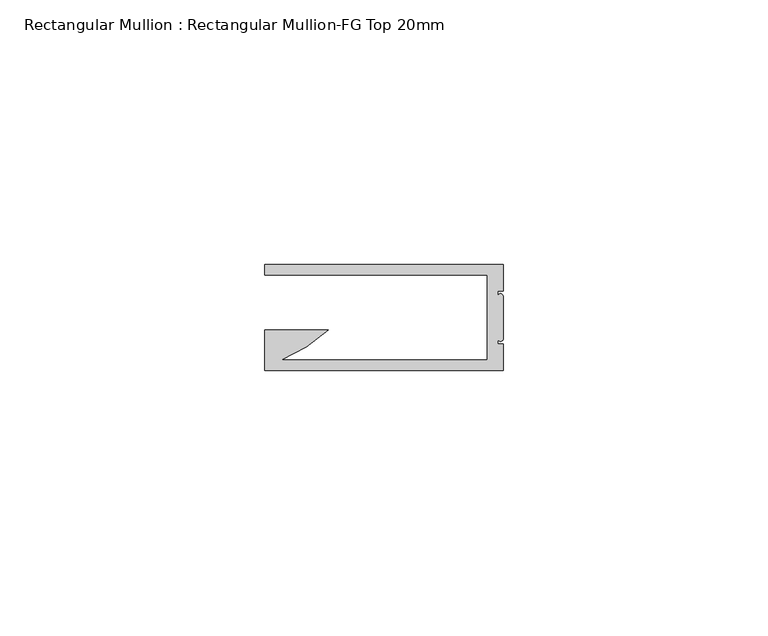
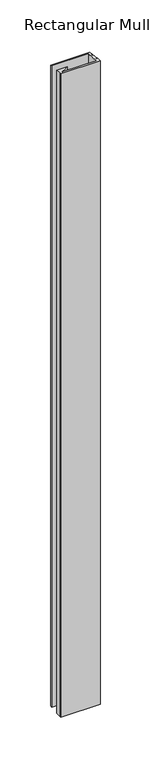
"""IFC4 building model written with IfcOpenShell, lengths in millimetres: member geometry, Rectangular Mullion : Rectangular Mullion-FG Top 20mm."""

from ifc_helpers import new_model, si_unit, frame, origin, place, context, project, spatial, ellipse_curve, source, transform, mapped, element, save
from ifc_brep_helpers import plane_surface, cylinder_surface, advanced_brep


def rectangular_mullion_rectangular_mullion_fg_top_20mm_b5ec766e(model_context):
    return source(origin(), model_context, "Body", "AdvancedBrep", [
        advanced_brep(
        [(0.0, -0.002, 0.0001846), (0.0, -5.002, 0.4617555), (0.0, -5.002, -774.4077228), (0.0, -0.002, -773.9461519), (-45.0, -0.002, 0.0001846), (-45.0, -0.002, -773.9461519), (-45.0, -2.002, 0.184813), (-45.0, -2.002, -774.1307803), (-3.0, -2.002, 0.184813), (-3.0, -2.002, -774.1307803), (-3.0, -18.002, 1.6618398), (-3.0, -18.002, -775.6078071), (-41.8651614, -18.002, 1.6618398), (-41.8651614, -18.002, -775.6078071), (-33.0474856, -12.382, 1.1430341), (-33.0474856, -12.382, -775.0890015), (-45.0, -12.382, 1.1430341), (-45.0, -12.382, -775.0890015), (-45.0, -18.002, 1.6618398), (-45.0, -18.002, -775.6078071), (-45.0, -20.002, 1.8464682), (-45.0, -20.002, -775.7924355), (0.0, -20.002, 1.8464682), (0.0, -20.002, -775.7924355), (0.0, -15.002, 1.3848973), (0.0, -15.002, -775.3308646), (-1.0, -15.002, 1.3848973), (-1.0, -15.002, -775.3308646), (-1.0, -14.002, 1.2925831), (-1.0, -14.002, -775.2385504), (0.0, -14.002, 1.2925831), (0.0, -14.002, -775.2385504), (0.0, -6.002, 0.5540697), (0.0, -6.002, -774.500037), (-1.0, -6.002, 0.5540697), (-1.0, -6.002, -774.500037), (-1.0, -5.002, 0.4617555), (-1.0, -5.002, -774.4077228)],
        [
            (0, 1),
            (1, 2),
            (2, 3),
            (3, 0),
            (4, 0),
            (3, 5),
            (5, 4),
            (6, 4),
            (5, 7),
            (7, 6),
            (8, 6),
            (7, 9),
            (9, 8),
            (10, 8),
            (9, 11),
            (11, 10),
            (12, 10),
            (11, 13),
            (13, 12),
            (14, 12, ellipse_curve(frame((-52.4160523, 8.2795369, -0.7643186), z_axis=(0.0, -0.0919233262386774, -0.9957660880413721), x_axis=(0.0, -0.9957660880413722, 0.09192332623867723)), 28.4407348, 28.3203192)),
            (13, 15, ellipse_curve(frame((-52.4160523, 8.2795369, -773.1816487), z_axis=(0.0, -0.09192332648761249, 0.995766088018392), x_axis=(0.0, 0.9957660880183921, 0.0919233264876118)), 28.4407348, 28.3203192)),
            (15, 14),
            (16, 14),
            (15, 17),
            (17, 16),
            (18, 16),
            (17, 19),
            (19, 18),
            (20, 18),
            (19, 21),
            (21, 20),
            (22, 20),
            (21, 23),
            (23, 22),
            (24, 22),
            (23, 25),
            (25, 24),
            (26, 24),
            (25, 27),
            (27, 26),
            (28, 26),
            (27, 29),
            (29, 28),
            (30, 28, ellipse_curve(frame((-0.5, -14.002, 1.2925831), z_axis=(0.0, -0.0919233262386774, -0.9957660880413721), x_axis=(0.0, -0.9957660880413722, 0.09192332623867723)), 0.502126, 0.5)),
            (29, 31, ellipse_curve(frame((-0.5, -14.002, -775.2385504), z_axis=(0.0, -0.09192332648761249, 0.995766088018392), x_axis=(0.0, 0.9957660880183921, 0.0919233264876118)), 0.502126, 0.5)),
            (31, 30),
            (32, 30),
            (31, 33),
            (33, 32),
            (34, 32, ellipse_curve(frame((-0.5, -6.002, 0.5540697), z_axis=(0.0, -0.0919233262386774, -0.9957660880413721), x_axis=(0.0, -0.9957660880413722, 0.09192332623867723)), 0.502126, 0.5)),
            (33, 35, ellipse_curve(frame((-0.5, -6.002, -774.500037), z_axis=(0.0, -0.09192332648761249, 0.995766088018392), x_axis=(0.0, 0.9957660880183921, 0.0919233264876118)), 0.502126, 0.5)),
            (35, 34),
            (36, 34),
            (35, 37),
            (37, 36),
            (1, 36),
            (37, 2),
        ],
        [
            plane_surface(frame((0.0, -5.002, 0.0), z_axis=(1.0, 0.0, 0.0), x_axis=(0.0, 0.0, -1.0))),
            plane_surface(frame((0.0, -0.002, 0.0), z_axis=(0.0, 1.0, 0.0), x_axis=(0.0, 0.0, -1.0))),
            plane_surface(frame((-45.0, -0.002, 0.0), z_axis=(-1.0, 0.0, 0.0), x_axis=(0.0, 0.0, -1.0))),
            plane_surface(frame((-45.0, -2.002, 0.0), z_axis=(0.0, -1.0, 0.0), x_axis=(0.0, 0.0, -1.0))),
            plane_surface(frame((-3.0, -2.002, 0.0), z_axis=(-1.0, 0.0, 0.0), x_axis=(0.0, 0.0, -1.0))),
            plane_surface(frame((-3.0, -18.002, 0.0), z_axis=(0.0, 1.0, 0.0), x_axis=(0.0, 0.0, -1.0))),
            cylinder_surface(frame((-52.4160523, 8.2795369, 0.0), z_axis=(0.0, 0.0, 1.0), x_axis=(1.0, 0.0, 0.0)), 28.3203192),
            plane_surface(frame((-33.0474856, -12.382, 0.0), z_axis=(0.0, 1.0, 0.0), x_axis=(0.0, 0.0, -1.0))),
            plane_surface(frame((-45.0, -12.382, 0.0), z_axis=(-1.0, 0.0, 0.0), x_axis=(0.0, 0.0, -1.0))),
            plane_surface(frame((-45.0, -18.002, 0.0), z_axis=(-1.0, 0.0, 0.0), x_axis=(0.0, 0.0, -1.0))),
            plane_surface(frame((-45.0, -20.002, 0.0), z_axis=(0.0, -1.0, 0.0), x_axis=(0.0, 0.0, -1.0))),
            plane_surface(frame((0.0, -20.002, 0.0), z_axis=(1.0, 0.0, 0.0), x_axis=(0.0, 0.0, -1.0))),
            plane_surface(frame((0.0, -15.002, 0.0), z_axis=(0.0, 1.0, 0.0), x_axis=(0.0, 0.0, -1.0))),
            plane_surface(frame((-1.0, -15.002, 0.0), z_axis=(1.0, 0.0, 0.0), x_axis=(0.0, 0.0, -1.0))),
            cylinder_surface(frame((-0.5, -14.002, 0.0), z_axis=(0.0, 0.0, 1.0), x_axis=(1.0, 0.0, 0.0)), 0.5),
            plane_surface(frame((0.0, -14.002, 0.0), z_axis=(1.0, 0.0, 0.0), x_axis=(0.0, 0.0, -1.0))),
            cylinder_surface(frame((-0.5, -6.002, 0.0), z_axis=(0.0, 0.0, 1.0), x_axis=(1.0, 0.0, 0.0)), 0.5),
            plane_surface(frame((-1.0, -6.002, 0.0), z_axis=(1.0, 0.0, 0.0), x_axis=(0.0, 0.0, -1.0))),
            plane_surface(frame((-1.0, -5.002, 0.0), z_axis=(0.0, -1.0, 0.0), x_axis=(0.0, 0.0, -1.0))),
            plane_surface(frame((-304.8, 0.0, 0.0), z_axis=(0.0, 0.0919233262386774, 0.9957660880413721), x_axis=(0.0, 0.9957660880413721, -0.0919233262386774))),
            plane_surface(frame((-304.8, 0.0, -773.9459673), z_axis=(0.0, 0.09192332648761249, -0.995766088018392), x_axis=(0.0, 0.995766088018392, 0.09192332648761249))),
        ],
        [
            (0, [[1, 2, 3, 4]]),
            (1, [[5, -4, 6, 7]]),
            (2, [[8, -7, 9, 10]]),
            (3, [[11, -10, 12, 13]]),
            (4, [[14, -13, 15, 16]]),
            (5, [[17, -16, 18, 19]]),
            (6, [[20, -19, 21, 22]]),
            (7, [[23, -22, 24, 25]]),
            (8, [[26, -25, 27, 28]]),
            (9, [[29, -28, 30, 31]]),
            (10, [[32, -31, 33, 34]]),
            (11, [[35, -34, 36, 37]]),
            (12, [[38, -37, 39, 40]]),
            (13, [[41, -40, 42, 43]]),
            (14, [[44, -43, 45, 46]]),
            (15, [[47, -46, 48, 49]]),
            (16, [[50, -49, 51, 52]]),
            (17, [[53, -52, 54, 55]]),
            (18, [[56, -55, 57, -2]]),
            (19, [[-1, -5, -8, -11, -14, -17, -20, -23, -26, -29, -32, -35, -38, -41, -44, -47, -50, -53, -56]]),
            (20, [[-57, -54, -51, -48, -45, -42, -39, -36, -33, -30, -27, -24, -21, -18, -15, -12, -9, -6, -3]]),
        ],
    ),
    ])


if __name__ == "__main__":
    model = new_model("IFC4")
    model_context = context("Model", 3, world=origin())
    ifc_project = project(units=[si_unit("LENGTHUNIT", "METRE", prefix="MILLI")], contexts=[model_context])
    site = spatial("IfcSite", under=ifc_project)
    building = spatial("IfcBuilding", under=site)
    placement = place(None, origin())
    rectangular_mullion_rectangular_mullion_fg_top_20mm_shape = rectangular_mullion_rectangular_mullion_fg_top_20mm_b5ec766e(model_context)
    element("IfcMember", 1, ObjectType="Rectangular Mullion : Rectangular Mullion-FG Top 20mm", at=placement, inside=building, context=model_context, shape_type="MappedRepresentation", body=[
        mapped(rectangular_mullion_rectangular_mullion_fg_top_20mm_shape, transform((0.0, 0.0, 0.0), x_axis=(1.0, 0.0, 0.0), y_axis=(0.0, 1.0, 0.0), z_axis=(0.0, 0.0, 1.0))),
    ])
    save(model, "model.ifc")
